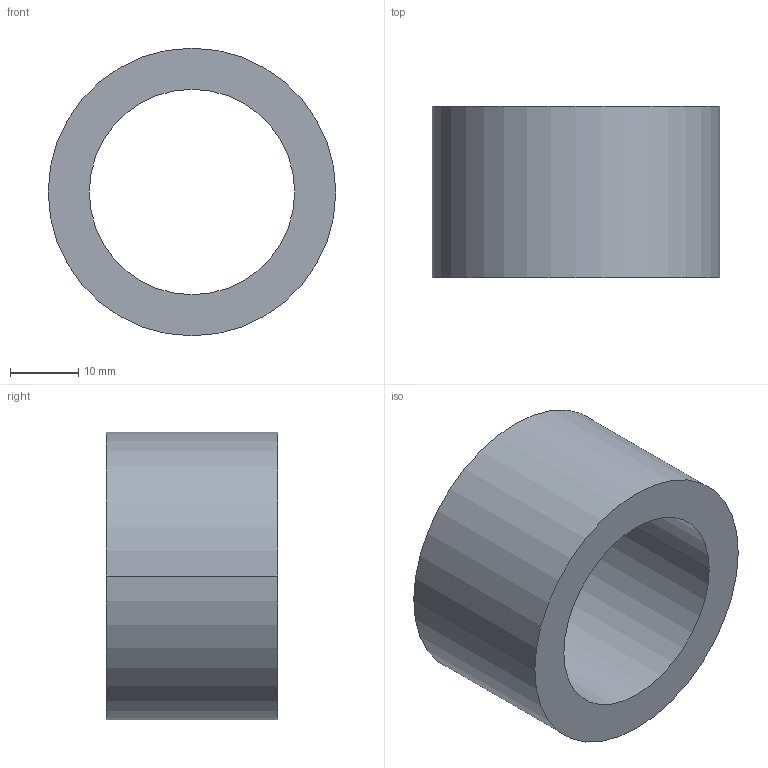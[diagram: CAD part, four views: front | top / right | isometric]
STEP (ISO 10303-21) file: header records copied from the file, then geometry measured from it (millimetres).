
FILE_DESCRIPTION (( 'STEP AP203' ), '1' );
FILE_NAME ('30800.WPP42J30.0.step', '2019-01-23T22:51:22', ( '' ), ( '' ), 'SwSTEP 2.0', 'SolidWorks 2017', '' );
FILE_SCHEMA (( 'CONFIG_CONTROL_DESIGN' ));
Length unit declared in the file: millimetre
Products named in the file (1): 30800.WPP42J30.0
Bounding box: 42 x 25 x 42 mm (x, y, z)
Volume: 16774.4 mm3; surface area: 6894.7 mm2
Topology: 1 solids, 1 shells, 8 faces, 16 edges, 10 vertices
Faces by surface type: cylinder 4, torus 2, plane 2
Entity records: 297 total; most frequent: DIRECTION 46, CARTESIAN_POINT 35, ORIENTED_EDGE 32, AXIS2_PLACEMENT_3D 21, EDGE_CURVE 16, CIRCLE 12, VERTEX_POINT 10, EDGE_LOOP 10
